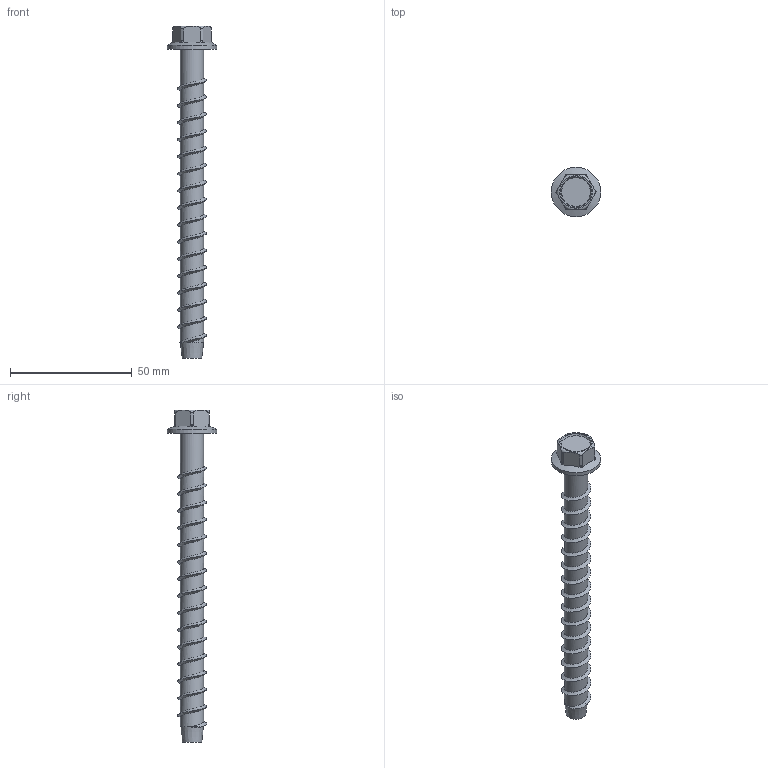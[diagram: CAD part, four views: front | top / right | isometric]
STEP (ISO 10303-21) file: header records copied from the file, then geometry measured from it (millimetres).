
FILE_DESCRIPTION(/* description */ (''),/* implementation_level */ '2;1');
FILE_NAME(/* name */ 'C:\001_Work\Designs\SAST\SAST-0.375 x 5.000.stp',/* time_stamp */ '2015-10-10T17:27:45-04:00',/* author */ ('rramoutar'),/* organization */ ('Mason Industries Inc.'),/* preprocessor_version */ 'ST-DEVELOPER v15.6',/* originating_system */ 'Autodesk Inventor 2015',/* authorisation */ '');
FILE_SCHEMA (('AUTOMOTIVE_DESIGN { 1 0 10303 214 3 1 1 }'));
Length unit declared in the file: inch
Products named in the file (1): SAST-0.375 x 5.000
Bounding box: 20.32 x 20.32 x 136.53 mm (x, y, z)
Volume: 11433.5 mm3; surface area: 5847.4 mm2
Topology: 1 solids, 1 shells, 52 faces, 138 edges, 90 vertices
Faces by surface type: cylinder 24, plane 10, bspline 8, torus 7, cone 3
Full cylindrical faces by diameter (mm): 9.525 x16, 20.32 x1
Entity records: 3815 total; most frequent: CARTESIAN_POINT 3041, ORIENTED_EDGE 166, DIRECTION 130, EDGE_CURVE 83, VERTEX_POINT 57, AXIS2_PLACEMENT_3D 53, EDGE_LOOP 44, FACE_OUTER_BOUND 36
